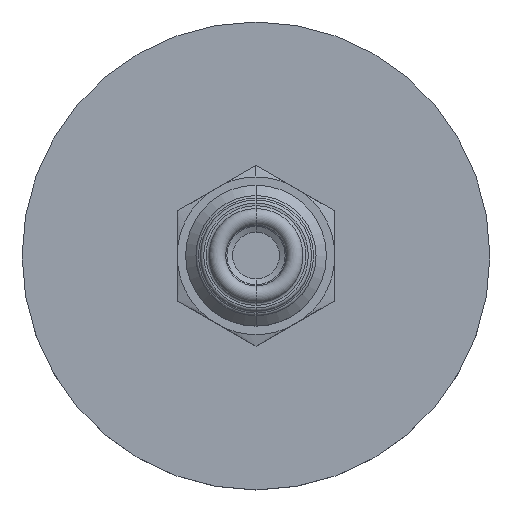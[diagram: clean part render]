
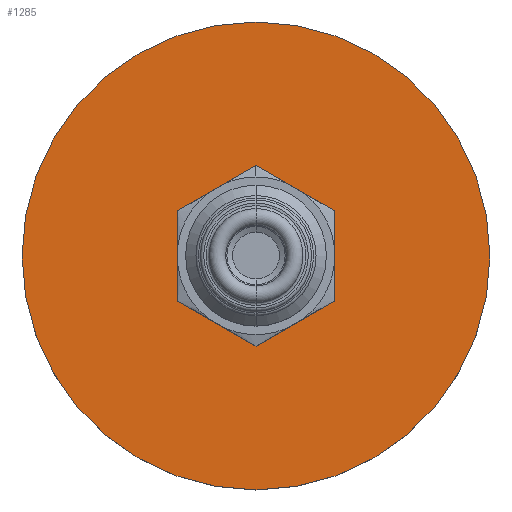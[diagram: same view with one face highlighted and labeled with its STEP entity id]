
A CAD part, top view. The second image highlights one B-rep face of the part: STEP entity #1285.
In plain terms, the highlighted planar face has unit normal (0, 0, 1).
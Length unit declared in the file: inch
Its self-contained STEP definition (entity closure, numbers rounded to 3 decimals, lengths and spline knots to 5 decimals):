
#680 = EDGE_CURVE ( 'NONE', #1188, #1070, #2828, .T. ) ;
#801 = VERTEX_POINT ( 'NONE', #3091 ) ;
#805 = EDGE_CURVE ( 'NONE', #961, #801, #3162, .T. ) ;
#910 = VERTEX_POINT ( 'NONE', #3227 ) ;
#921 = VERTEX_POINT ( 'NONE', #3256 ) ;
#923 = EDGE_CURVE ( 'NONE', #1208, #921, #3254, .T. ) ;
#961 = VERTEX_POINT ( 'NONE', #3443 ) ;
#1067 = VERTEX_POINT ( 'NONE', #3511 ) ;
#1069 = EDGE_CURVE ( 'NONE', #1070, #1067, #3509, .T. ) ;
#1070 = VERTEX_POINT ( 'NONE', #3536 ) ;
#1173 = EDGE_CURVE ( 'NONE', #921, #910, #3744, .T. ) ;
#1188 = VERTEX_POINT ( 'NONE', #3790 ) ;
#1190 = EDGE_CURVE ( 'NONE', #910, #1188, #3789, .T. ) ;
#1208 = VERTEX_POINT ( 'NONE', #3705 ) ;
#1210 = EDGE_CURVE ( 'NONE', #1067, #1208, #3704, .T. ) ;
#1249 = ORIENTED_EDGE ( 'NONE', *, *, #805, .T. ) ;
#1250 = ORIENTED_EDGE ( 'NONE', *, *, #1251, .T. ) ;
#1251 = EDGE_CURVE ( 'NONE', #801, #961, #3833, .T. ) ;
#1252 = EDGE_LOOP ( 'NONE', ( #1253, #1254, #1255, #1256, #1257, #1258 ) ) ;
#1253 = ORIENTED_EDGE ( 'NONE', *, *, #680, .T. ) ;
#1254 = ORIENTED_EDGE ( 'NONE', *, *, #1069, .T. ) ;
#1255 = ORIENTED_EDGE ( 'NONE', *, *, #1210, .T. ) ;
#1256 = ORIENTED_EDGE ( 'NONE', *, *, #923, .T. ) ;
#1257 = ORIENTED_EDGE ( 'NONE', *, *, #1173, .T. ) ;
#1258 = ORIENTED_EDGE ( 'NONE', *, *, #1190, .T. ) ;
#1285 = ADVANCED_FACE ( 'NONE', ( #3855, #3850 ), #3849, .F. ) ;
#1286 = EDGE_LOOP ( 'NONE', ( #1249, #1250 ) ) ;
#2828 = LINE ( 'NONE', #2839, #2838 ) ;
#2837 = DIRECTION ( 'NONE',  ( -0.866, -0.5, 0. ) ) ;
#2838 = VECTOR ( 'NONE', #2837, 39.37008 ) ;
#2839 = CARTESIAN_POINT ( 'NONE',  ( 0.3125, -0.18042, -0.923 ) ) ;
#3091 = CARTESIAN_POINT ( 'NONE',  ( -0.935, 0., -0.923 ) ) ;
#3161 = AXIS2_PLACEMENT_3D ( 'NONE', #3178, #3191, #3190 ) ;
#3162 = CIRCLE ( 'NONE', #3161, 0.935 ) ;
#3178 = CARTESIAN_POINT ( 'NONE',  ( 0., 0., -0.923 ) ) ;
#3190 = DIRECTION ( 'NONE',  ( 1., 0., 0. ) ) ;
#3191 = DIRECTION ( 'NONE',  ( 0., 0., 1. ) ) ;
#3227 = CARTESIAN_POINT ( 'NONE',  ( 0.3125, 0.18042, -0.923 ) ) ;
#3251 = DIRECTION ( 'NONE',  ( 0.866, 0.5, 0. ) ) ;
#3252 = VECTOR ( 'NONE', #3251, 39.37008 ) ;
#3253 = CARTESIAN_POINT ( 'NONE',  ( -0.3125, 0.18042, -0.923 ) ) ;
#3254 = LINE ( 'NONE', #3253, #3252 ) ;
#3256 = CARTESIAN_POINT ( 'NONE',  ( 0., 0.36084, -0.923 ) ) ;
#3443 = CARTESIAN_POINT ( 'NONE',  ( 0.935, 0., -0.923 ) ) ;
#3506 = DIRECTION ( 'NONE',  ( -0.866, 0.5, 0. ) ) ;
#3507 = VECTOR ( 'NONE', #3506, 39.37008 ) ;
#3508 = CARTESIAN_POINT ( 'NONE',  ( 0., -0.36084, -0.923 ) ) ;
#3509 = LINE ( 'NONE', #3508, #3507 ) ;
#3511 = CARTESIAN_POINT ( 'NONE',  ( -0.3125, -0.18042, -0.923 ) ) ;
#3536 = CARTESIAN_POINT ( 'NONE',  ( 0., -0.36084, -0.923 ) ) ;
#3701 = DIRECTION ( 'NONE',  ( 0., 1., 0. ) ) ;
#3702 = VECTOR ( 'NONE', #3701, 39.37008 ) ;
#3703 = CARTESIAN_POINT ( 'NONE',  ( -0.3125, -0.18042, -0.923 ) ) ;
#3704 = LINE ( 'NONE', #3703, #3702 ) ;
#3705 = CARTESIAN_POINT ( 'NONE',  ( -0.3125, 0.18042, -0.923 ) ) ;
#3735 = DIRECTION ( 'NONE',  ( 0.866, -0.5, 0. ) ) ;
#3736 = VECTOR ( 'NONE', #3735, 39.37008 ) ;
#3737 = CARTESIAN_POINT ( 'NONE',  ( 0., 0.36084, -0.923 ) ) ;
#3744 = LINE ( 'NONE', #3737, #3736 ) ;
#3786 = DIRECTION ( 'NONE',  ( 0., -1., 0. ) ) ;
#3787 = VECTOR ( 'NONE', #3786, 39.37008 ) ;
#3788 = CARTESIAN_POINT ( 'NONE',  ( 0.3125, 0.18042, -0.923 ) ) ;
#3789 = LINE ( 'NONE', #3788, #3787 ) ;
#3790 = CARTESIAN_POINT ( 'NONE',  ( 0.3125, -0.18042, -0.923 ) ) ;
#3809 = CARTESIAN_POINT ( 'NONE',  ( 0., 0., -0.923 ) ) ;
#3830 = DIRECTION ( 'NONE',  ( 1., 0., 0. ) ) ;
#3831 = DIRECTION ( 'NONE',  ( 0., 0., 1. ) ) ;
#3832 = AXIS2_PLACEMENT_3D ( 'NONE', #3809, #3831, #3830 ) ;
#3833 = CIRCLE ( 'NONE', #3832, 0.935 ) ;
#3845 = DIRECTION ( 'NONE',  ( -1., 0., 0. ) ) ;
#3846 = DIRECTION ( 'NONE',  ( 0., 0., -1. ) ) ;
#3847 = CARTESIAN_POINT ( 'NONE',  ( 0., 0., -0.923 ) ) ;
#3848 = AXIS2_PLACEMENT_3D ( 'NONE', #3847, #3846, #3845 ) ;
#3849 = PLANE ( 'NONE',  #3848 ) ;
#3850 = FACE_BOUND ( 'NONE', #1252, .T. ) ;
#3855 = FACE_OUTER_BOUND ( 'NONE', #1286, .T. ) ;
